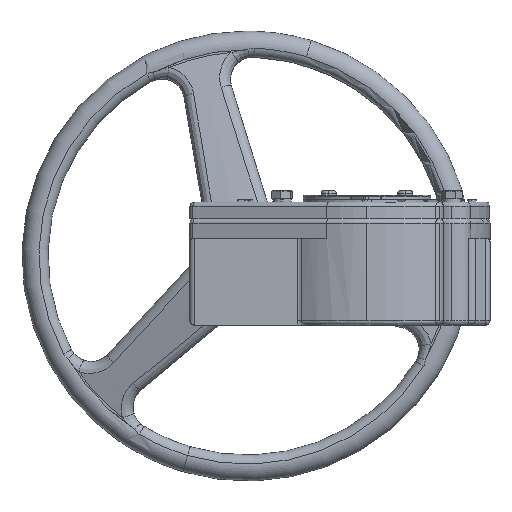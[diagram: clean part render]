
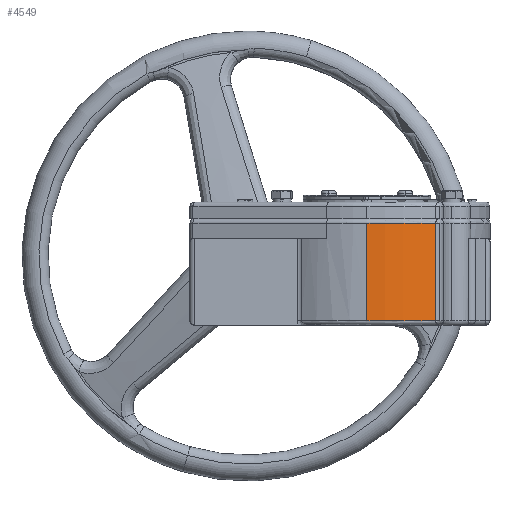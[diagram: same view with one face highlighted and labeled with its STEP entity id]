
A CAD part, left-side view. The second image highlights one B-rep face of the part: STEP entity #4549.
In plain terms, the highlighted cylindrical face has radius 3.231 mm (diameter 6.462 mm), a partial arc.
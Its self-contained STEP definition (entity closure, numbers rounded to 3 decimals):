
#1038 = VERTEX_POINT('',#1039);
#1039 = CARTESIAN_POINT('',(-65.599,111.546,3.));
#1049 = CYLINDRICAL_SURFACE('',#1050,0.197);
#1050 = AXIS2_PLACEMENT_3D('',#1051,#1052,#1053);
#1051 = CARTESIAN_POINT('',(-65.762,111.436,5.167));
#1052 = DIRECTION('',(0.,0.,1.));
#1053 = DIRECTION('',(1.,0.,-0.));
#1174 = VERTEX_POINT('',#1175);
#1175 = CARTESIAN_POINT('',(-65.599,111.546,5.561));
#1274 = EDGE_CURVE('',#1038,#1174,#1275,.T.);
#1275 = SURFACE_CURVE('',#1276,(#1280,#1287),.PCURVE_S1.);
#1276 = LINE('',#1277,#1278);
#1277 = CARTESIAN_POINT('',(-65.599,111.546,5.167));
#1278 = VECTOR('',#1279,1.);
#1279 = DIRECTION('',(0.,0.,1.));
#1280 = PCURVE('',#1049,#1281);
#1281 = DEFINITIONAL_REPRESENTATION('',(#1282),#1286);
#1282 = LINE('',#1283,#1284);
#1283 = CARTESIAN_POINT('',(0.593,0.));
#1284 = VECTOR('',#1285,1.);
#1285 = DIRECTION('',(0.,1.));
#1286 = ( GEOMETRIC_REPRESENTATION_CONTEXT(2) 
PARAMETRIC_REPRESENTATION_CONTEXT() REPRESENTATION_CONTEXT('2D SPACE',''
  ) );
#1287 = PCURVE('',#1288,#1293);
#1288 = CYLINDRICAL_SURFACE('',#1289,3.231);
#1289 = AXIS2_PLACEMENT_3D('',#1290,#1291,#1292);
#1290 = CARTESIAN_POINT('',(-62.919,113.351,5.167));
#1291 = DIRECTION('',(0.,0.,-1.));
#1292 = DIRECTION('',(-1.,0.,0.));
#1293 = DEFINITIONAL_REPRESENTATION('',(#1294),#1298);
#1294 = LINE('',#1295,#1296);
#1295 = CARTESIAN_POINT('',(5.69,0.));
#1296 = VECTOR('',#1297,1.);
#1297 = DIRECTION('',(0.,-1.));
#1298 = ( GEOMETRIC_REPRESENTATION_CONTEXT(2) 
PARAMETRIC_REPRESENTATION_CONTEXT() REPRESENTATION_CONTEXT('2D SPACE',''
  ) );
#4549 = ADVANCED_FACE('',(#4550),#1288,.T.);
#4550 = FACE_BOUND('',#4551,.T.);
#4551 = EDGE_LOOP('',(#4552,#4581,#4609,#4636));
#4552 = ORIENTED_EDGE('',*,*,#4553,.T.);
#4553 = EDGE_CURVE('',#1174,#4554,#4556,.T.);
#4554 = VERTEX_POINT('',#4555);
#4555 = CARTESIAN_POINT('',(-66.15,113.351,5.561));
#4556 = SURFACE_CURVE('',#4557,(#4562,#4569),.PCURVE_S1.);
#4557 = CIRCLE('',#4558,3.231);
#4558 = AXIS2_PLACEMENT_3D('',#4559,#4560,#4561);
#4559 = CARTESIAN_POINT('',(-62.919,113.351,5.561));
#4560 = DIRECTION('',(0.,0.,-1.));
#4561 = DIRECTION('',(1.,0.,0.));
#4562 = PCURVE('',#1288,#4563);
#4563 = DEFINITIONAL_REPRESENTATION('',(#4564),#4568);
#4564 = LINE('',#4565,#4566);
#4565 = CARTESIAN_POINT('',(3.142,-0.394));
#4566 = VECTOR('',#4567,1.);
#4567 = DIRECTION('',(1.,0.));
#4568 = ( GEOMETRIC_REPRESENTATION_CONTEXT(2) 
PARAMETRIC_REPRESENTATION_CONTEXT() REPRESENTATION_CONTEXT('2D SPACE',''
  ) );
#4569 = PCURVE('',#4570,#4575);
#4570 = TOROIDAL_SURFACE('',#4571,3.113,0.118);
#4571 = AXIS2_PLACEMENT_3D('',#4572,#4573,#4574);
#4572 = CARTESIAN_POINT('',(-62.919,113.351,5.561));
#4573 = DIRECTION('',(0.,0.,1.));
#4574 = DIRECTION('',(1.,0.,-0.));
#4575 = DEFINITIONAL_REPRESENTATION('',(#4576),#4580);
#4576 = LINE('',#4577,#4578);
#4577 = CARTESIAN_POINT('',(6.283,0.));
#4578 = VECTOR('',#4579,1.);
#4579 = DIRECTION('',(-1.,0.));
#4580 = ( GEOMETRIC_REPRESENTATION_CONTEXT(2) 
PARAMETRIC_REPRESENTATION_CONTEXT() REPRESENTATION_CONTEXT('2D SPACE',''
  ) );
#4581 = ORIENTED_EDGE('',*,*,#4582,.T.);
#4582 = EDGE_CURVE('',#4554,#4583,#4585,.T.);
#4583 = VERTEX_POINT('',#4584);
#4584 = CARTESIAN_POINT('',(-66.15,113.351,3.));
#4585 = SURFACE_CURVE('',#4586,(#4590,#4597),.PCURVE_S1.);
#4586 = LINE('',#4587,#4588);
#4587 = CARTESIAN_POINT('',(-66.15,113.351,5.167));
#4588 = VECTOR('',#4589,1.);
#4589 = DIRECTION('',(0.,0.,-1.));
#4590 = PCURVE('',#1288,#4591);
#4591 = DEFINITIONAL_REPRESENTATION('',(#4592),#4596);
#4592 = LINE('',#4593,#4594);
#4593 = CARTESIAN_POINT('',(6.283,0.));
#4594 = VECTOR('',#4595,1.);
#4595 = DIRECTION('',(0.,1.));
#4596 = ( GEOMETRIC_REPRESENTATION_CONTEXT(2) 
PARAMETRIC_REPRESENTATION_CONTEXT() REPRESENTATION_CONTEXT('2D SPACE',''
  ) );
#4597 = PCURVE('',#4598,#4603);
#4598 = CYLINDRICAL_SURFACE('',#4599,3.231);
#4599 = AXIS2_PLACEMENT_3D('',#4600,#4601,#4602);
#4600 = CARTESIAN_POINT('',(-62.919,113.351,5.167));
#4601 = DIRECTION('',(0.,0.,-1.));
#4602 = DIRECTION('',(-1.,0.,0.));
#4603 = DEFINITIONAL_REPRESENTATION('',(#4604),#4608);
#4604 = LINE('',#4605,#4606);
#4605 = CARTESIAN_POINT('',(0.,0.));
#4606 = VECTOR('',#4607,1.);
#4607 = DIRECTION('',(0.,1.));
#4608 = ( GEOMETRIC_REPRESENTATION_CONTEXT(2) 
PARAMETRIC_REPRESENTATION_CONTEXT() REPRESENTATION_CONTEXT('2D SPACE',''
  ) );
#4609 = ORIENTED_EDGE('',*,*,#4610,.T.);
#4610 = EDGE_CURVE('',#4583,#1038,#4611,.T.);
#4611 = SURFACE_CURVE('',#4612,(#4617,#4624),.PCURVE_S1.);
#4612 = CIRCLE('',#4613,3.231);
#4613 = AXIS2_PLACEMENT_3D('',#4614,#4615,#4616);
#4614 = CARTESIAN_POINT('',(-62.919,113.351,3.));
#4615 = DIRECTION('',(0.,0.,1.));
#4616 = DIRECTION('',(1.,0.,-0.));
#4617 = PCURVE('',#1288,#4618);
#4618 = DEFINITIONAL_REPRESENTATION('',(#4619),#4623);
#4619 = LINE('',#4620,#4621);
#4620 = CARTESIAN_POINT('',(9.425,2.167));
#4621 = VECTOR('',#4622,1.);
#4622 = DIRECTION('',(-1.,0.));
#4623 = ( GEOMETRIC_REPRESENTATION_CONTEXT(2) 
PARAMETRIC_REPRESENTATION_CONTEXT() REPRESENTATION_CONTEXT('2D SPACE',''
  ) );
#4624 = PCURVE('',#4625,#4630);
#4625 = TOROIDAL_SURFACE('',#4626,3.113,0.118);
#4626 = AXIS2_PLACEMENT_3D('',#4627,#4628,#4629);
#4627 = CARTESIAN_POINT('',(-62.919,113.351,3.));
#4628 = DIRECTION('',(0.,0.,1.));
#4629 = DIRECTION('',(1.,0.,-0.));
#4630 = DEFINITIONAL_REPRESENTATION('',(#4631),#4635);
#4631 = LINE('',#4632,#4633);
#4632 = CARTESIAN_POINT('',(0.,6.283));
#4633 = VECTOR('',#4634,1.);
#4634 = DIRECTION('',(1.,0.));
#4635 = ( GEOMETRIC_REPRESENTATION_CONTEXT(2) 
PARAMETRIC_REPRESENTATION_CONTEXT() REPRESENTATION_CONTEXT('2D SPACE',''
  ) );
#4636 = ORIENTED_EDGE('',*,*,#1274,.T.);
